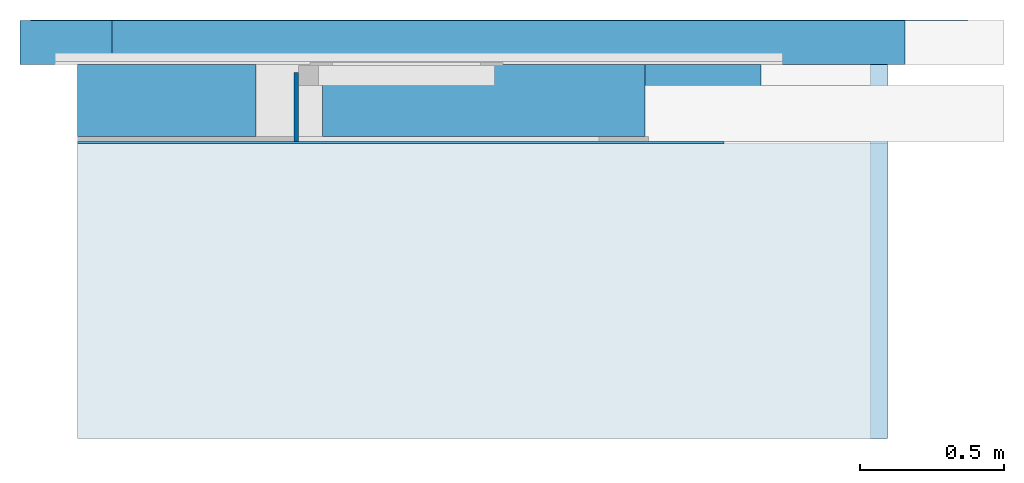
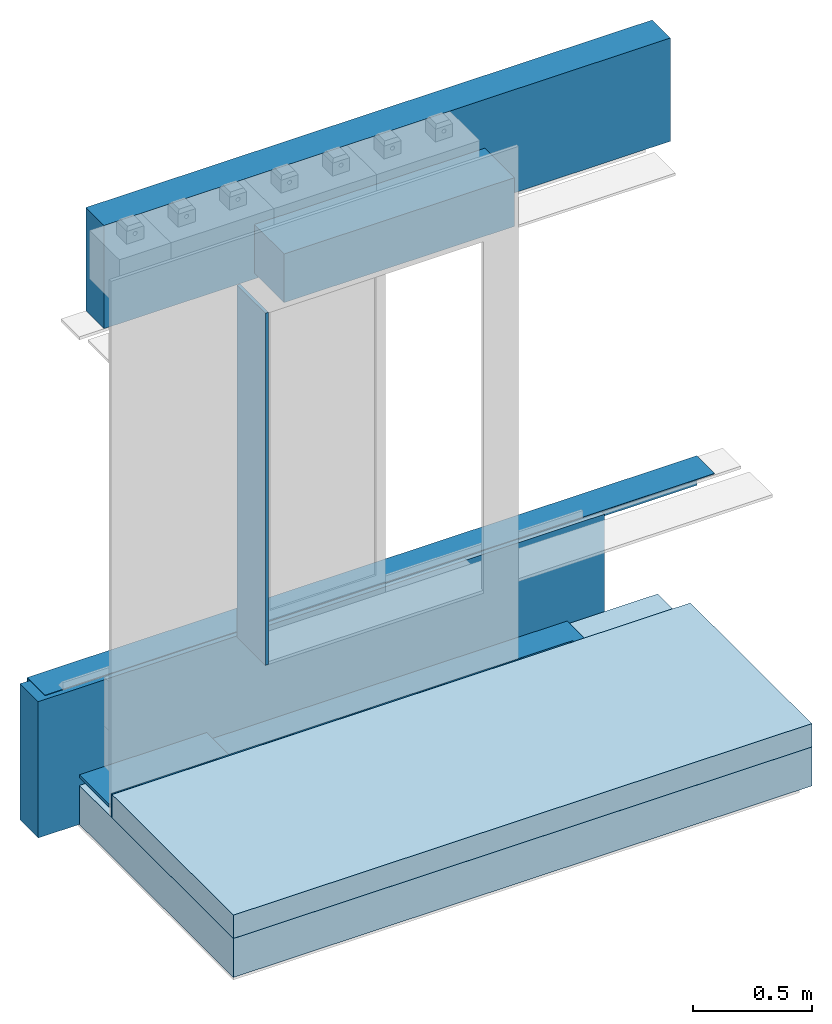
# One storey, part 1 of 4: 5 walls, 3 beams, 2 slabs.
"""IFC4 building model written with IfcOpenShell, lengths in centimetres."""

from ifc_helpers import new_model, entity, si_unit, converted_unit, direction, frame, origin, place, context, subcontext, project, spatial, indexed_curve, outline, extrude, source, transform, mapped, material, constituent, constituent_set, type_object, type_shapes, element, save


model = new_model("IFC4")

# Units and contexts
model_context = context("Model", 3, precision=0.001, world=origin(), true_north=direction((0.0, 1.0)))
body_context = subcontext(model_context, "Body", "Model", "MODEL_VIEW")
ifc_project = project(units=[si_unit("LENGTHUNIT", "METRE", prefix="CENTI"), si_unit("AREAUNIT", "SQUARE_METRE"), si_unit("VOLUMEUNIT", "CUBIC_METRE"), converted_unit("PLANEANGLEUNIT", "DEGREE", entity("IfcPlaneAngleMeasure", 0.017453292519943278), si_unit("PLANEANGLEUNIT", "RADIAN"), dimensions=[0, 0, 0, 0, 0, 0, 0])], contexts=[model_context])

# Site, building, storey
site_placement = place(None, origin())
site = spatial("IfcSite", under=ifc_project, at=site_placement, Name="Default", CompositionType="ELEMENT")
building_placement = place(site_placement, origin())
building = spatial("IfcBuilding", under=site, at=building_placement, CompositionType="ELEMENT")
storey_placement = place(building_placement, frame((0.0, 0.0, -12.0)))
storey = spatial("IfcBuildingStorey", under=building, at=storey_placement, Name="L00__ABOVE Slab", CompositionType="ELEMENT", Elevation=-12.000000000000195)

# Beams
ifc_material_1 = material(Name="_STRUCTURE__Wood")
beam_type_1 = type_object("IfcBeamType", Name="Structural Framing : sfr__WOOD__Rectangular__sf : 15 x 1cm", PredefinedType="BEAM", material=ifc_material_1)
shared_shape_1 = source(origin(), body_context, "Body", "SweptSolid", [
    extrude(outline(indexed_curve([(-30.949999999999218, -12.500000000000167), (30.949999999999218, -12.500000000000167), (30.949999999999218, 12.500000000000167), (-30.949999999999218, 12.500000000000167), (-30.949999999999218, -12.500000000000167)], self_intersect=False)), frame((-6.550000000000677, 0.0, -0.7500000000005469), z_axis=(0.0, 0.0, 1.0), x_axis=(-1.0, 0.0, 0.0)), (0.0, 0.0, 1.0), 1.4999999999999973),
])
type_shapes(beam_type_1, [shared_shape_1])
beam_1_placement = place(storey_placement, frame((2782.9309287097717, 428.7834523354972, 9.25), z_axis=(0.0, 0.0, 1.0), x_axis=(-1.0, 0.0, 0.0)))
element("IfcBeam", 1, at=beam_1_placement, inside=storey, type_object=beam_type_1, material=ifc_material_1, Name="Structural Framing : sfr__WOOD__Rectangular__sf : 15 x 1cm", PredefinedType="BEAM", context=body_context, shape_type="MappedRepresentation", body=[
    mapped(shared_shape_1, transform((0.0, 0.0, 0.0), scale=1.0)),
])
ifc_material_2 = material(Name="_MASONRY__Timber Block__Triqbriq, Filler", Category="Miscellaneous")
beam_type_2 = type_object("IfcBeamType", Name="Structural Framing : sfr__WOOD__Rectangular__sf : 15 x 25cm", PredefinedType="BEAM", material=ifc_material_2)
shared_shape_2 = source(origin(), body_context, "Body", "SweptSolid", [
    extrude(outline(indexed_curve([(-55.949999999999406, -12.500000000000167), (55.949999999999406, -12.500000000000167), (55.949999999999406, 12.500000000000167), (-55.949999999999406, 12.500000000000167), (-55.949999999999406, -12.500000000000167)], self_intersect=False)), frame((19.050000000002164, 0.0, -12.500000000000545), z_axis=(0.0, 0.0, 1.0), x_axis=(-1.0, 0.0, 0.0)), (0.0, 0.0, 1.0), 24.999999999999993),
])
type_shapes(beam_type_2, [shared_shape_2])
beam_2_placement = place(storey_placement, frame((2880.4309287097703, 428.78345233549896, 250.30000000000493)))
element("IfcBeam", 2, at=beam_2_placement, inside=storey, type_object=beam_type_2, material=ifc_material_2, Name="Structural Framing : sfr__WOOD__Rectangular__sf : 15 x 25cm", PredefinedType="BEAM", context=body_context, shape_type="MappedRepresentation", body=[
    mapped(shared_shape_2, transform((0.0, 0.0, 0.0), scale=1.0)),
])
ifc_material_3 = material(Name="Metal - Light Gauge", Category="Metal")
beam_type_3 = type_object("IfcBeamType", Name="Structural Framing : Light Gauge-Angles : L150 x 150", PredefinedType="BEAM", material=ifc_material_3)
shared_shape_3 = source(origin(), body_context, "Body", "SweptSolid", [
    extrude(outline(indexed_curve([(-9.9, -5.100000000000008), (5.1, -5.100000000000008), (5.1, 9.900000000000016), (4.8, 9.900000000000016), (4.8, -4.800000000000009), (-9.9, -4.800000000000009), (-9.9, -5.100000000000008)], self_intersect=False)), frame((-297.2062258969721, -5.100000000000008, -5.1), z_axis=(1.0, 0.0, 0.0), x_axis=(0.0, 0.0, 1.0)), (0.0, 0.0, 1.0), 325.2062258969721),
])
type_shapes(beam_type_3, [shared_shape_3])
beam_3_placement = place(storey_placement, frame((3039.349456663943, 456.7834523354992, 56.300000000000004)))
element("IfcBeam", 3, at=beam_3_placement, inside=storey, type_object=beam_type_3, material=ifc_material_3, Name="Structural Framing : Light Gauge-Angles : L150 x 150", PredefinedType="BEAM", context=body_context, shape_type="MappedRepresentation", body=[
    mapped(shared_shape_3, transform((0.0, 0.0, 0.0), scale=1.0)),
])

# Slabs
ifc_constituent_1 = constituent(ifc_material_1, Name="_STRUCTURE__Wood", fraction=0.75)
ifc_material_4 = material(Name="_FCD LAYERS__Insulation__Wood-fiber__Steico", Category="Unassigned")
ifc_constituent_2 = constituent(ifc_material_4, Name="_FCD LAYERS__Insulation__Wood-fiber__Steico", Category="Unassigned", fraction=0.25)
ifc_constituent_set_1 = constituent_set(constituents=[ifc_constituent_1, ifc_constituent_2], Name="Floor:flr__STRUCTURE__Wood Beams 15cm+insu__TriqBriq 2")
slab_type_1 = type_object("IfcSlabType", Name="Floors : Floor : flr__STRUCTURE__Wood Beams 15cm+insu__TriqBriq 2", PredefinedType="FLOOR", material=ifc_constituent_set_1)
slab_1_placement = place(storey_placement, origin())
element("IfcSlab", 4, at=slab_1_placement, inside=storey, type_object=slab_type_1, material=ifc_constituent_set_1, Name="Floors : Floor : flr__STRUCTURE__Wood Beams 15cm+insu__TriqBriq 2", PredefinedType="FLOOR", context=body_context, shape_type="SweptSolid", body=[
    extrude(outline(indexed_curve([(-64.80000000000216, -140.44999999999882), (64.80000000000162, -140.44999999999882), (64.80000000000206, 140.44999999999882), (-64.80000000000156, 140.44999999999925), (-64.80000000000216, -140.44999999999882)], self_intersect=False)), frame((2898.9809287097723, 376.4834523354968, -10.499999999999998), z_axis=(0.0, 0.0, 1.0), x_axis=(0.0, 1.0, 0.0)), (0.0, 0.0, 1.0), 15.0),
    extrude(outline(indexed_curve([(-64.80000000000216, -140.44999999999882), (64.80000000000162, -140.44999999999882), (64.80000000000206, 140.44999999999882), (-64.80000000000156, 140.44999999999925), (-64.80000000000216, -140.44999999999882)], self_intersect=False)), frame((2898.9809287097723, 376.4834523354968, -15.499999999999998), z_axis=(0.0, 0.0, 1.0), x_axis=(0.0, 1.0, 0.0)), (0.0, 0.0, 1.0), 5.0),
])
ifc_material_5 = material(Name="_FINISH STAIR__Int__Parquet Flooring__Stairs", Category="Unassigned")
ifc_constituent_3 = constituent(ifc_material_5, Name="_FINISH STAIR__Int__Parquet Flooring__Stairs", Category="Unassigned", fraction=0.08333333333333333)
ifc_material_6 = material(Name="_FLR LAYERS__Screed, SL 0.5%__Semi-dry CEM, Rc ≥ 22.5 N/mm²", Category="Concrete")
ifc_constituent_4 = constituent(ifc_material_6, Name="_FLR LAYERS__Screed, SL 0.5%__Semi-dry CEM, Rc ≥ 22.5 N/mm²", Category="Concrete", fraction=0.2916666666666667)
ifc_material_7 = material(Name="_FLR COVERING__Polished Concrete", Category="Concrete")
ifc_constituent_5 = constituent(ifc_material_7, Name="_FLR COVERING__Polished Concrete", Category="Concrete", fraction=0.5833333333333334)
ifc_material_8 = material(Name="_FCD VENT LAYERS__Support Board__OSB 3", Category="Ceramic")
ifc_constituent_6 = constituent(ifc_material_8, Name="_FCD VENT LAYERS__Support Board__OSB 3", Category="Ceramic", fraction=0.041666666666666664)
ifc_constituent_set_2 = constituent_set(constituents=[ifc_constituent_3, ifc_constituent_4, ifc_constituent_5, ifc_constituent_6], Name="Floor:flr__INT COVERING__Parquet")
slab_type_2 = type_object("IfcSlabType", Name="Floors : Floor : flr__INT COVERING__Parquet", PredefinedType="FLOOR", material=ifc_constituent_set_2)
slab_2_placement = place(storey_placement, origin())
element("IfcSlab", 5, at=slab_2_placement, inside=storey, type_object=slab_type_2, material=ifc_constituent_set_2, Name="Floors : Floor : flr__INT COVERING__Parquet", PredefinedType="FLOOR", context=body_context, shape_type="SweptSolid", body=[
    extrude(outline(indexed_curve([(-9.72000000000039, -40.880000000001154), (142.87999999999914, -40.880000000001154), (142.87999999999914, 61.320000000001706), (-138.01999999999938, 61.320000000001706), (-138.01999999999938, -40.880000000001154), (-9.72000000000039, -40.880000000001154)], self_intersect=False)), frame((2901.410928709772, 373.00345233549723, 15.500000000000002), z_axis=(0.0, 0.0, 1.0), x_axis=(-1.0, 0.0, 0.0)), (0.0, 0.0, 1.0), 1.0000000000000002),
    extrude(outline(indexed_curve([(-9.72000000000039, -40.880000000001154), (142.87999999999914, -40.880000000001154), (142.87999999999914, 61.320000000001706), (-138.01999999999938, 61.320000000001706), (-138.01999999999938, -40.880000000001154), (-9.72000000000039, -40.880000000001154)], self_intersect=False)), frame((2901.410928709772, 373.00345233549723, 12.0), z_axis=(0.0, 0.0, 1.0), x_axis=(-1.0, 0.0, 0.0)), (0.0, 0.0, 1.0), 3.4999999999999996),
    extrude(outline(indexed_curve([(-9.72000000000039, -40.880000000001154), (142.87999999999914, -40.880000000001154), (142.87999999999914, 61.320000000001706), (-138.01999999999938, 61.320000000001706), (-138.01999999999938, -40.880000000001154), (-9.72000000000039, -40.880000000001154)], self_intersect=False)), frame((2901.410928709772, 373.00345233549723, 5.0), z_axis=(0.0, 0.0, 1.0), x_axis=(-1.0, 0.0, 0.0)), (0.0, 0.0, 1.0), 7.0),
    extrude(outline(indexed_curve([(-40.88000000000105, -142.87999999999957), (61.32000000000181, -142.87999999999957), (61.32000000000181, 138.01999999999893), (-40.88000000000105, 138.01999999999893), (-40.88000000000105, 9.719999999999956), (-40.88000000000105, -142.87999999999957)], self_intersect=False)), frame((2901.4109287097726, 373.00345233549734, 4.500000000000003), z_axis=(0.0, 0.0, 1.0), x_axis=(0.0, -1.0, 0.0)), (0.0, 0.0, 1.0), 0.49999999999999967),
])

# Walls
ifc_material_9 = material(Name="_FCD FINISH__Mineral Render__Combed, H L/O__Capatect Kreativeffekt \"Filigrano\"__White", Category="Concrete")
ifc_constituent_7 = constituent(ifc_material_9, Name="_FCD FINISH__Mineral Render__Combed, H L/O__Capatect Kreativeffekt \"Filigrano\"__White", Category="Concrete", fraction=0.0196078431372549)
ifc_material_10 = material(Name="_STRUCTURE__Wood Solid")
ifc_constituent_8 = constituent(ifc_material_10, Name="_STRUCTURE__Wood Solid", fraction=0.06535947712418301)
ifc_constituent_9 = constituent(ifc_material_4, Name="_FCD LAYERS__Insulation__Wood-fiber__Steico", Category="Unassigned", fraction=0.9150326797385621)
ifc_constituent_set_3 = constituent_set(constituents=[ifc_constituent_7, ifc_constituent_8, ifc_constituent_9], Name="Basic Wall:wll__EXT ENCLOSURE__Spritzkork, Wood Insulation 8.4cm__TriqBriq, FS.1")
wall_type_1 = type_object("IfcWallType", Name="Walls : Basic Wall : wll__EXT ENCLOSURE__Spritzkork, Wood Insulation 8.4cm__TriqBriq, FS.1", PredefinedType="STANDARD", material=ifc_constituent_set_3)
wall_1_placement = place(storey_placement, frame((2770.5309287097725, 448.9334523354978, 234.80000000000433)))
element("IfcWall", 6, at=wall_1_placement, inside=storey, type_object=wall_type_1, material=ifc_constituent_set_3, Name="Walls : Basic Wall : wll__EXT ENCLOSURE__Spritzkork, Wood Insulation 8.4cm__TriqBriq, FS.1", PredefinedType="NOTDEFINED", context=body_context, shape_type="SweptSolid", body=[
    extrude(outline(indexed_curve([(-0.14999999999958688, -137.49999999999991), (0.15000000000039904, -137.49999999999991), (0.14999999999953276, 137.50000000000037), (-0.1500000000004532, 137.50000000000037), (-0.14999999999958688, -137.49999999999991)], self_intersect=False)), frame((137.50000000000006, 7.499999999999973, 0.0), z_axis=(0.0, 0.0, 1.0), x_axis=(0.0, -1.0, 0.0)), (0.0, 0.0, 1.0), 53.00000000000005),
    extrude(outline(indexed_curve([(-6.999999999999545, -137.49999999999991), (7.000000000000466, -137.49999999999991), (6.999999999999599, 137.50000000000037), (-7.000000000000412, 137.50000000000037), (-6.999999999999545, -137.49999999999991)], self_intersect=False)), frame((137.50000000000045, -0.6500000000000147, 0.0), z_axis=(0.0, 0.0, 1.0), x_axis=(0.0, 1.0, 0.0)), (0.0, 0.0, 1.0), 53.00000000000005),
    extrude(outline(indexed_curve([(-137.50000000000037, -0.4999999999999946), (137.49999999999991, -0.4999999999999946), (137.49999999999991, 0.4999999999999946), (-137.50000000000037, 0.4999999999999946), (-137.50000000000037, -0.4999999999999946)], self_intersect=False)), frame((137.50000000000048, 6.850000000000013, 0.0)), (0.0, 0.0, 1.0), 53.00000000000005),
])
wall_2_placement = place(storey_placement, frame((2738.5309287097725, 448.9334523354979, -15.499999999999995)))
element("IfcWall", 7, at=wall_2_placement, inside=storey, type_object=wall_type_1, material=ifc_constituent_set_3, Name="Walls : Basic Wall : wll__EXT ENCLOSURE__Spritzkork, Wood Insulation 8.4cm__TriqBriq, FS.1", PredefinedType="NOTDEFINED", context=body_context, shape_type="SweptSolid", body=[
    extrude(outline(indexed_curve([(-0.14999999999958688, -137.50000000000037), (0.15000000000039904, -137.50000000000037), (0.14999999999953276, 137.49999999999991), (-0.1500000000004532, 137.49999999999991), (-0.14999999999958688, -137.50000000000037)], self_intersect=False)), frame((137.50000000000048, 7.499999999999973, 0.0), z_axis=(0.0, 0.0, 1.0), x_axis=(0.0, -1.0, 0.0)), (0.0, 0.0, 1.0), 69.99999999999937),
    extrude(outline(indexed_curve([(-6.999999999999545, -137.50000000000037), (7.000000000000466, -137.50000000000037), (6.999999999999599, 137.49999999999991), (-7.000000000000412, 137.49999999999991), (-6.999999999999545, -137.50000000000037)], self_intersect=False)), frame((137.50000000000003, -0.6500000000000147, 0.0), z_axis=(0.0, 0.0, 1.0), x_axis=(0.0, 1.0, 0.0)), (0.0, 0.0, 1.0), 69.99999999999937),
    extrude(outline(indexed_curve([(-137.49999999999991, -0.4999999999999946), (137.50000000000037, -0.4999999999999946), (137.50000000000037, 0.4999999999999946), (-137.49999999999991, 0.4999999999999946), (-137.49999999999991, -0.4999999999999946)], self_intersect=False)), frame((137.50000000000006, 6.850000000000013, 0.0)), (0.0, 0.0, 1.0), 69.99999999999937),
])
ifc_material_11 = material(Name="_WLL & CLG FINISHES__Lime - CEM Plaster", Category="Unassigned")
ifc_constituent_10 = constituent(ifc_material_11, Name="_WLL & CLG FINISHES__Lime - CEM Plaster", Category="Unassigned", fraction=0.37499999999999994)
ifc_material_12 = material(Name="_FCD LAYERS__Insulation__EPS 120__Austrotherm EPS A120")
ifc_constituent_11 = constituent(ifc_material_12, Name="_FCD LAYERS__Insulation__EPS 120__Austrotherm EPS A120", fraction=0.625)
ifc_constituent_set_4 = constituent_set(constituents=[ifc_constituent_10, ifc_constituent_11], Name="Basic Wall:wll__INT FINISH__Spritzkork, Lime - CEM Plaster 2.4cm TRIQBRIQ")
wall_type_2 = type_object("IfcWallType", Name="Walls : Basic Wall : wll__INT FINISH__Spritzkork, Lime - CEM Plaster 2.4cm TRIQBRIQ", PredefinedType="STANDARD", material=ifc_constituent_set_4)
wall_3_placement = place(storey_placement, frame((2834.3309287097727, 438.5834523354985, 56.0), z_axis=(0.0, 0.0, 1.0), x_axis=(0.0, -1.0, 0.0)))
element("IfcWall", 8, at=wall_3_placement, inside=storey, type_object=wall_type_2, material=ifc_constituent_set_4, Name="Walls : Basic Wall : wll__INT FINISH__Spritzkork, Lime - CEM Plaster 2.4cm TRIQBRIQ", PredefinedType="NOTDEFINED", context=body_context, shape_type="SweptSolid", body=[
    extrude(outline(indexed_curve([(-0.4999999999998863, -11.950000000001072), (0.4999999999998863, -11.950000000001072), (0.4999999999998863, 11.950000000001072), (-0.4999999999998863, 11.950000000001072), (-0.4999999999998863, -11.950000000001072)], self_intersect=False)), frame((11.950000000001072, 0.29999999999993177, 0.0), z_axis=(0.0, 0.0, 1.0), x_axis=(0.0, -1.0, 0.0)), (0.0, 0.0, 1.0), 180.80000000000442),
    extrude(outline(indexed_curve([(-0.29999999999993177, -11.950000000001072), (0.3000000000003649, -11.950000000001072), (0.3000000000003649, 11.950000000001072), (-0.29999999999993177, 11.950000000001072), (-0.29999999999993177, -11.950000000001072)], self_intersect=False)), frame((11.950000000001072, -0.5000000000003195, 0.0), z_axis=(0.0, 0.0, 1.0), x_axis=(0.0, 1.0, 0.0)), (0.0, 0.0, 1.0), 180.80000000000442),
])
ifc_constituent_12 = constituent(ifc_material_12, Name="_FCD LAYERS__Insulation__EPS 120__Austrotherm EPS A120", fraction=1.0)
ifc_constituent_set_5 = constituent_set(constituents=[ifc_constituent_12], Name="Basic Wall:wll__UNCLASSIFIED__Randdämmstreifen 1.5cm")
wall_type_3 = type_object("IfcWallType", Name="Walls : Basic Wall : wll__UNCLASSIFIED__Randdämmstreifen 1.5cm", PredefinedType="STANDARD", material=ifc_constituent_set_5)
wall_4_placement = place(storey_placement, frame((2758.5309287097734, 414.28345233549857, 4.500000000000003)))
element("IfcWall", 9, at=wall_4_placement, inside=storey, type_object=wall_type_3, material=ifc_constituent_set_5, Name="Walls : Basic Wall : wll__UNCLASSIFIED__Randdämmstreifen 1.5cm", PredefinedType="NOTDEFINED", context=body_context, shape_type="SweptSolid", body=[
    extrude(outline(indexed_curve([(224.2999999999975, 0.40000000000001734), (-5.793315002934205e-16, 0.40000000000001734), (5.793315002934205e-16, -0.40000000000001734), (224.2999999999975, -0.40000000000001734), (224.2999999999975, 0.40000000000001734)], self_intersect=False)), origin(), (0.0, 0.0, 1.0), 12.0),
])
wall_type_4 = type_object("IfcWallType", Name="Columns : wll_s__DECOUPLING BEAM__Rectangular__wp : Wood", PredefinedType="SOLIDWALL", material=ifc_material_10)
wall_5_placement = place(storey_placement, frame((2770.5309287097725, 416.28345233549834, 4.500000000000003)))
element("IfcWall", 10, at=wall_5_placement, inside=storey, type_object=wall_type_4, material=ifc_material_10, Name="Columns : wll_s__DECOUPLING BEAM__Rectangular__wp : Wood", PredefinedType="SOLIDWALL", context=body_context, shape_type="SweptSolid", body=[
    extrude(outline(indexed_curve([(-112.50000000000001, -12.499999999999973), (112.49999999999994, -12.499999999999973), (112.50000000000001, 12.500000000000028), (-112.49999999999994, 12.500000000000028), (-112.50000000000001, -12.499999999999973)], self_intersect=False)), frame((112.49999999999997, 12.500000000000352, 0.0), z_axis=(0.0, 0.0, 1.0), x_axis=(-1.0, 0.0, 0.0)), (0.0, 0.0, 1.0), 1.499999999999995),
])

save(model, "model.ifc")
